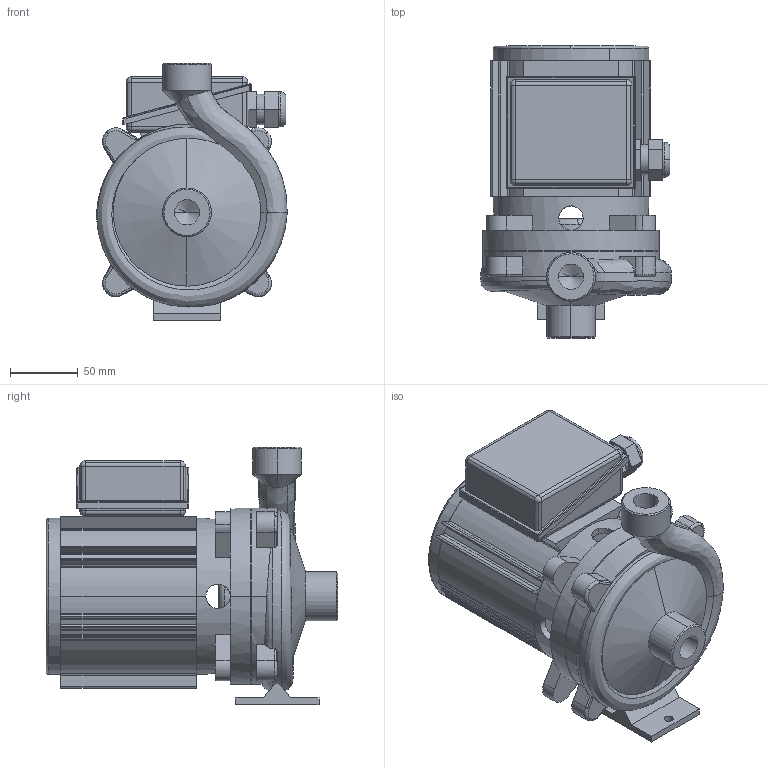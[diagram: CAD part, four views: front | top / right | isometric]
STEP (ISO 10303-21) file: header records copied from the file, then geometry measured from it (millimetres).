
FILE_DESCRIPTION(('STEP AP214'),'1');
FILE_NAME('export.stp','2018-05-28T14:01:53',(' '),(' '),'Spatial InterOp 3D',' ',' ');
FILE_SCHEMA(('AUTOMOTIVE_DESIGN { 1 0 10303 214 1 1 1 1 }'));
Length unit declared in the file: millimetre
Products named in the file (8): V_MOP732742; RU_OP_732_742; TKILPI_OP_7; KYTKOTELO_OP7_OKN8; W_AP154500; V_EKN12OP7; V_TLL32AAP15AKP25; V_PPAP15
Assembly tree (7 placements, depth 3):
  W_AP154500
    V_MOP732742
      RU_OP_732_742
      TKILPI_OP_7
      KYTKOTELO_OP7_OKN8
    V_EKN12OP7
    V_TLL32AAP15AKP25
    V_PPAP15
Bounding box: 140.6 x 215.5 x 190 mm (x, y, z)
Volume: 1355416.6 mm3; surface area: 304670.5 mm2
Topology: 6 solids, 7 shells, 462 faces, 1231 edges, 787 vertices
Faces by surface type: cylinder 249, plane 131, bspline 38, torus 16, cone 16, sphere 12
Entity records: 26050 total; most frequent: CARTESIAN_POINT 6689, DIRECTION 2469, ORIENTED_EDGE 2434, STYLED_ITEM 1254, PRESENTATION_STYLE_ASSIGNMENT 1254, COLOUR_RGB 1254, EDGE_CURVE 1217, AXIS2_PLACEMENT_3D 989
